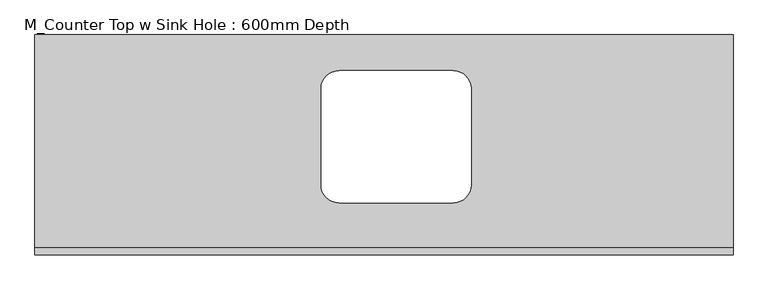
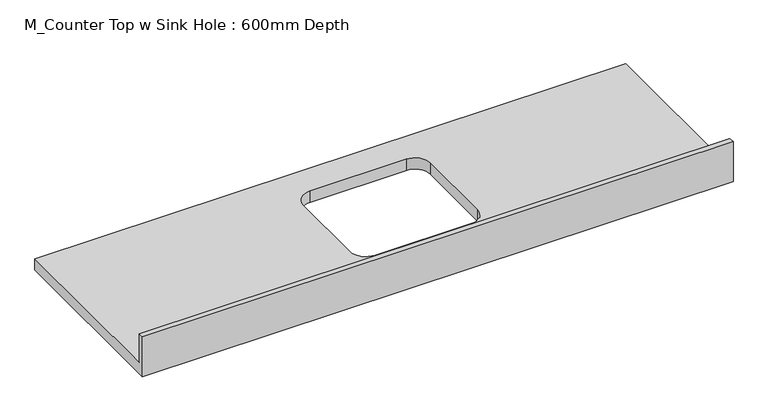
"""IFC4 building model written with IfcOpenShell, lengths in millimetres: furniture geometry, M_Counter Top w Sink Hole : 600mm Depth."""

import ifcopenshell
import ifcopenshell.guid

model = None  # the IFC model being written
_history = None  # IfcOwnerHistory: only IFC2X3 demands one
_inside = {}  # id of a spatial element -> (the spatial element, [elements in it])
_under = {}  # id of a project, library or spatial element -> (it, [spatial elements below it])
_declared = {}  # id of a project -> (the project, [libraries it declares])
_typed = {}  # id of a type object -> (the type object, [elements of that type])
_made_of = {}  # id of a material, layer set ... -> (it, [elements and type objects made of it])


def new_model(schema):
    """Start an empty IFC model of exactly this schema.

    Asked for "IFC4X3", IfcOpenShell would pick the latest addendum, in which some entities
    have other attributes; the version numbers below select the first issue.
    IFC2X3 requires an IfcOwnerHistory on every rooted entity: one is made here for all.
    """
    global model, _history
    if schema == "IFC4X3":
        model = ifcopenshell.file(schema_version=(4, 3, 0, 0))
    else:
        model = ifcopenshell.file(schema=schema)
    _inside.clear()
    _under.clear()
    _declared.clear()
    _typed.clear()
    _made_of.clear()
    _history = None
    if model.schema == "IFC2X3":
        org = make("IfcOrganization", Name="unknown")
        user = make(
            "IfcPersonAndOrganization",
            ThePerson=make("IfcPerson", FamilyName="unknown"),
            TheOrganization=org,
        )
        app = make(
            "IfcApplication",
            ApplicationDeveloper=org,
            Version="unknown",
            ApplicationFullName="unknown",
            ApplicationIdentifier="unknown",
        )
        _history = make(
            "IfcOwnerHistory",
            OwningUser=user,
            OwningApplication=app,
            ChangeAction="ADDED",
            CreationDate=0,
        )
    return model


def make(cls, **values):
    """One entity of the class cls with the attributes given. An attribute that is None is left unset."""
    return model.create_entity(
        cls, **{name: value for name, value in values.items() if value is not None}
    )


def rooted(cls, **values):
    """An entity with a GlobalId (a new one), such as an element, a storey or a relation."""
    return make(cls, GlobalId=ifcopenshell.guid.new(), OwnerHistory=_history, **values)


def si_unit(unit_type, name, prefix=None):
    """IfcSIUnit, for example si_unit("LENGTHUNIT", "METRE", prefix="MILLI")."""
    return make("IfcSIUnit", UnitType=unit_type, Prefix=prefix, Name=name)


def assignment(units):
    """IfcUnitAssignment: the units of a project."""
    return None if units is None else make("IfcUnitAssignment", Units=units)


def point(xyz):
    """IfcCartesianPoint."""
    return None if xyz is None else make("IfcCartesianPoint", Coordinates=xyz)


def direction(xyz):
    """IfcDirection."""
    return None if xyz is None else make("IfcDirection", DirectionRatios=xyz)


def frame(location, z_axis=None, x_axis=None):
    """IfcAxis2Placement3D, a coordinate frame: its origin and axes. An axis left out is left unset."""
    return make(
        "IfcAxis2Placement3D",
        Location=point(location),
        Axis=direction(z_axis),
        RefDirection=direction(x_axis),
    )


def origin():
    """The frame at (0, 0, 0) with its axes left unset."""
    return frame((0.0, 0.0, 0.0))


def place(relative_to, where):
    """IfcLocalPlacement: puts the frame where relative to a parent placement (None: the world)."""
    return make(
        "IfcLocalPlacement", PlacementRelTo=relative_to, RelativePlacement=where
    )


def context(
    kind, dimensions, precision=None, world=None, true_north=None, identifier=None
):
    """IfcGeometricRepresentationContext, for example the 3D "Model" context."""
    return make(
        "IfcGeometricRepresentationContext",
        ContextIdentifier=identifier,
        ContextType=kind,
        CoordinateSpaceDimension=dimensions,
        Precision=precision,
        WorldCoordinateSystem=world,
        TrueNorth=true_north,
    )


def project(units=None, contexts=None):
    """IfcProject with its units and contexts."""
    return rooted(
        "IfcProject",
        Name="project",
        RepresentationContexts=contexts,
        UnitsInContext=assignment(units),
    )


def spatial(cls, under=None, at=None, **own):
    """A site, building, storey or space (cls), placed at a placement, below another one or the project."""
    s = rooted(cls, ObjectPlacement=at, **own)
    if under is not None:
        _under.setdefault(under.id(), (under, []))[1].append(s)
    return s


def polyline(points):
    """IfcPolyline through the points."""
    return make("IfcPolyline", Points=[point(p) for p in points])


def circle_curve(where, radius):
    """IfcCircle in the frame where."""
    return make("IfcCircle", Position=where, Radius=radius)


def shape(context_of_items, identifier, shape_type, items):
    """IfcShapeRepresentation: the items that make up one representation, for example the "Body"."""
    return make(
        "IfcShapeRepresentation",
        ContextOfItems=context_of_items,
        RepresentationIdentifier=identifier,
        RepresentationType=shape_type,
        Items=items,
    )


def source(mapping_origin, context_of_items, identifier, shape_type, items):
    """IfcRepresentationMap: a shape defined once, which mapped items show again and again."""
    return make(
        "IfcRepresentationMap",
        MappingOrigin=mapping_origin,
        MappedRepresentation=shape(context_of_items, identifier, shape_type, items),
    )


def transform(
    local_origin,
    x_axis=None,
    y_axis=None,
    z_axis=None,
    scale=None,
    scale2=None,
    scale3=None,
    uniform=True,
):
    """IfcCartesianTransformationOperator3D, or its non-uniform kind. x_axis, y_axis, z_axis: its Axis1, 2, 3."""
    if uniform:
        return make(
            "IfcCartesianTransformationOperator3D",
            Axis1=direction(x_axis),
            Axis2=direction(y_axis),
            LocalOrigin=point(local_origin),
            Scale=scale,
            Axis3=direction(z_axis),
        )
    return make(
        "IfcCartesianTransformationOperator3DnonUniform",
        Axis1=direction(x_axis),
        Axis2=direction(y_axis),
        LocalOrigin=point(local_origin),
        Scale=scale,
        Axis3=direction(z_axis),
        Scale2=scale2,
        Scale3=scale3,
    )


def mapped(mapping_source, mapping_target):
    """IfcMappedItem: shows the shape of a source again, moved by a transform."""
    return make(
        "IfcMappedItem", MappingSource=mapping_source, MappingTarget=mapping_target
    )


def made_of(thing, what):
    """Note that an element or type object is made of a material, layer set ...; save() writes the relation."""
    if what is not None:
        _made_of.setdefault(what.id(), (what, []))[1].append(thing)
    return thing


def element(
    cls,
    number,
    at=None,
    inside=None,
    cuts=None,
    type_object=None,
    material=None,
    context=None,
    identifier="Body",
    shape_type=None,
    held_by="IfcProductDefinitionShape",
    body=None,
    shapes=None,
    **own,
):
    """One element of the class cls, such as IfcWall. Its Tag is "e" and its number.

    at: its placement. inside: the storey or other place that contains it. cuts: it is an
    opening in that element (IfcRelVoidsElement). A single representation is given by context,
    identifier, shape_type and body (its items); several are given by shapes. held_by: the class
    of the entity that holds the representations. save() writes the other relations.
    """
    e = rooted(cls, Tag="e%d" % number, ObjectPlacement=at, **own)
    if body is not None:
        shapes = [shape(context, identifier, shape_type, body)]
    if shapes is not None:
        e.Representation = make(held_by, Representations=shapes)
    if inside is not None:
        _inside.setdefault(inside.id(), (inside, []))[1].append(e)
    if cuts is not None:
        rooted(
            "IfcRelVoidsElement", RelatingBuildingElement=cuts, RelatedOpeningElement=e
        )
    if type_object is not None:
        _typed.setdefault(type_object.id(), (type_object, []))[1].append(e)
    return made_of(e, material)


def aggregate(whole, parts):
    """IfcRelAggregates: a whole, such as a stair, and the parts it consists of."""
    return rooted("IfcRelAggregates", RelatingObject=whole, RelatedObjects=parts)


def save(model, path):
    """Write the relations noted so far, then the file.

    IfcRelAggregates (storeys below a building ...), IfcRelContainedInSpatialStructure (elements
    in a storey), IfcRelDefinesByType, IfcRelAssociatesMaterial and IfcRelDeclares: one each for
    every whole, place, type object, material and project.
    """
    for whole, parts in _under.values():
        aggregate(whole, parts)
    for where, things in _inside.values():
        rooted(
            "IfcRelContainedInSpatialStructure",
            RelatedElements=things,
            RelatingStructure=where,
        )
    for kind, things in _typed.values():
        rooted("IfcRelDefinesByType", RelatedObjects=things, RelatingType=kind)
    for what, things in _made_of.values():
        rooted("IfcRelAssociatesMaterial", RelatedObjects=things, RelatingMaterial=what)
    for by, libraries in _declared.values():
        rooted("IfcRelDeclares", RelatingContext=by, RelatedDefinitions=libraries)
    model.write(path)


def plane_surface(at):
    """IfcPlane: the flat surface through the origin of the frame at, square to its z axis."""
    return make("IfcPlane", Position=at)


def revolved_surface(curve, axis_point, axis_direction):
    """IfcSurfaceOfRevolution: the curve turned about the line through axis_point along axis_direction."""
    return make(
        "IfcSurfaceOfRevolution",
        SweptCurve=make("IfcArbitraryOpenProfileDef", ProfileType="CURVE", Curve=curve),
        AxisPosition=make("IfcAxis1Placement", Location=point(axis_point), Axis=direction(axis_direction)),
    )


def advanced_brep(points, edges, surfaces, faces):
    """IfcAdvancedBrep: a solid bounded by faces that lie on surfaces and meet in shared edges.

    An edge is (start, end): straight between two places in points (the first is 0);
    or (start, end, curve); or (start, end, curve, False) where it runs against its curve.
    A face is (place in surfaces, loops), or (place, loops, False) where it looks against
    its surface's normal. A loop lists edges by number (the first is 1), with a minus sign
    where the edge is run from its end to its start. The first loop is the outer one.
    """
    corners = [point(p) for p in points]
    vertices = [make("IfcVertexPoint", VertexGeometry=c) for c in corners]
    made = []
    for start, end, *more in edges:
        made.append(
            make(
                "IfcEdgeCurve",
                EdgeStart=vertices[start],
                EdgeEnd=vertices[end],
                EdgeGeometry=more[0] if more else make("IfcPolyline", Points=[corners[start], corners[end]]),
                SameSense=more[1] if len(more) > 1 else True,
            )
        )
    hull = []
    for where, loops, *sense in faces:
        bounds = []
        for j, loop in enumerate(loops):
            ring = [make("IfcOrientedEdge", EdgeElement=made[abs(k) - 1], Orientation=k > 0) for k in loop]
            bounds.append(
                make(
                    "IfcFaceOuterBound" if j == 0 else "IfcFaceBound",
                    Bound=make("IfcEdgeLoop", EdgeList=ring),
                    Orientation=True,
                )
            )
        hull.append(make("IfcAdvancedFace", Bounds=bounds, FaceSurface=surfaces[where], SameSense=sense[0] if sense else True))
    return make("IfcAdvancedBrep", Outer=make("IfcClosedShell", CfsFaces=hull))


def m_counter_top_w_sink_hole_600mm_depth_42226178(model_context):
    return source(origin(), model_context, "Body", "AdvancedBrep", [
        advanced_brep(
        [(-1200.4622951, 625.0, 900.0), (-1200.4622951, 19.05, 900.0), (781.0377049, 19.05, 900.0), (781.0377049, 625.0, 900.0), (-337.3622951, 147.3, 900.0), (-388.1622951, 198.1, 900.0), (-388.1622951, 471.9, 900.0), (-337.3622951, 522.7, 900.0), (-13.5622951, 522.7, 900.0), (37.2377049, 471.9, 900.0), (37.2377049, 198.1, 900.0), (-13.5622951, 147.3, 900.0), (781.0377049, 0.0, 860.0), (-1200.4622951, 0.0, 860.0), (-1200.4622951, 625.0, 860.0), (781.0377049, 625.0, 860.0), (-13.5622951, 147.3, 860.0), (37.2377049, 198.1, 860.0), (37.2377049, 471.9, 860.0), (-13.5622951, 522.7, 860.0), (-337.3622951, 522.7, 860.0), (-388.1622951, 471.9, 860.0), (-388.1622951, 198.1, 860.0), (-337.3622951, 147.3, 860.0), (781.0377049, 0.0, 1001.6), (-1200.4622951, 0.0, 1001.6), (-1200.4622951, 19.05, 1001.6), (781.0377049, 19.05, 1001.6)],
        [
            (0, 1),
            (1, 2),
            (2, 3),
            (3, 0),
            (4, 5, circle_curve(frame((-337.3622951, 198.1, 900.0), z_axis=(0.0, 0.0, -1.0), x_axis=(1.0, 0.0, 0.0)), 50.8)),
            (5, 6),
            (6, 7, circle_curve(frame((-337.3622951, 471.9, 900.0), z_axis=(0.0, 0.0, -1.0), x_axis=(1.0, 0.0, 0.0)), 50.8)),
            (7, 8),
            (8, 9, circle_curve(frame((-13.5622951, 471.9, 900.0), z_axis=(0.0, 0.0, -1.0), x_axis=(1.0, 0.0, 0.0)), 50.8)),
            (9, 10),
            (10, 11, circle_curve(frame((-13.5622951, 198.1, 900.0), z_axis=(0.0, 0.0, -1.0), x_axis=(1.0, 0.0, 0.0)), 50.8)),
            (11, 4),
            (12, 13),
            (13, 14),
            (14, 15),
            (15, 12),
            (16, 17, circle_curve(frame((-13.5622951, 198.1, 860.0), z_axis=(0.0, 0.0, 1.0), x_axis=(1.0, 0.0, 0.0)), 50.8)),
            (17, 18),
            (18, 19, circle_curve(frame((-13.5622951, 471.9, 860.0), z_axis=(0.0, 0.0, 1.0), x_axis=(1.0, 0.0, 0.0)), 50.8)),
            (19, 20),
            (20, 21, circle_curve(frame((-337.3622951, 471.9, 860.0), z_axis=(0.0, 0.0, 1.0), x_axis=(1.0, 0.0, 0.0)), 50.8)),
            (21, 22),
            (22, 23, circle_curve(frame((-337.3622951, 198.1, 860.0), z_axis=(0.0, 0.0, 1.0), x_axis=(1.0, 0.0, 0.0)), 50.8)),
            (23, 16),
            (12, 24),
            (24, 25),
            (25, 13),
            (25, 26),
            (26, 1),
            (0, 14),
            (3, 15),
            (2, 27),
            (27, 24),
            (27, 26),
            (11, 16),
            (23, 4),
            (22, 5),
            (21, 6),
            (20, 7),
            (19, 8),
            (18, 9),
            (17, 10),
        ],
        [
            plane_surface(frame((-1200.4622951, 0.0, 900.0), z_axis=(0.0, 0.0, 1.0), x_axis=(-1.0, 0.0, 0.0))),
            plane_surface(frame((-1200.4622951, 0.0, 860.0), z_axis=(0.0, 0.0, -1.0), x_axis=(1.0, 0.0, 0.0))),
            plane_surface(frame((781.0377049, 0.0, 900.0), z_axis=(0.0, -1.0, 0.0), x_axis=(0.0, 0.0, -1.0))),
            plane_surface(frame((-1200.4622951, 0.0, 900.0), z_axis=(-1.0, 0.0, 0.0), x_axis=(0.0, 0.0, -1.0))),
            plane_surface(frame((-1200.4622951, 625.0, 900.0), z_axis=(0.0, 1.0, 0.0), x_axis=(0.0, 0.0, -1.0))),
            plane_surface(frame((781.0377049, 625.0, 900.0), z_axis=(1.0, 0.0, 0.0), x_axis=(0.0, 0.0, -1.0))),
            plane_surface(frame((-1200.4622951, 0.0, 1001.6), z_axis=(0.0, 0.0, 1.0), x_axis=(0.0, 1.0, 0.0))),
            plane_surface(frame((-1200.4622951, 19.05, 1001.6), z_axis=(0.0, 1.0, 0.0), x_axis=(0.0, 0.0, -1.0))),
            plane_surface(frame((-13.5622951, 147.3, 900.0), z_axis=(0.0, 1.0, 0.0), x_axis=(0.0, 0.0, -1.0))),
            revolved_surface(polyline([(-286.5622951, 198.1, 900.0), (-286.5622951, 198.1, 860.0)]), (-337.3622951, 198.1, 860.0), (0.0, 0.0, 1.0)),
            plane_surface(frame((-388.1622951, 198.1, 900.0), z_axis=(1.0, 0.0, 0.0), x_axis=(0.0, 0.0, -1.0))),
            revolved_surface(polyline([(-286.5622951, 471.9, 900.0), (-286.5622951, 471.9, 860.0)]), (-337.3622951, 471.9, 860.0), (0.0, 0.0, 1.0)),
            plane_surface(frame((-337.3622951, 522.7, 900.0), z_axis=(0.0, -1.0, 0.0), x_axis=(0.0, 0.0, -1.0))),
            revolved_surface(polyline([(37.2377049, 471.9, 900.0), (37.2377049, 471.9, 860.0)]), (-13.5622951, 471.9, 860.0), (0.0, 0.0, 1.0)),
            plane_surface(frame((37.2377049, 471.9, 900.0), z_axis=(-1.0, 0.0, 0.0), x_axis=(0.0, 0.0, -1.0))),
            revolved_surface(polyline([(37.2377049, 198.1, 900.0), (37.2377049, 198.1, 860.0)]), (-13.5622951, 198.1, 860.0), (0.0, 0.0, 1.0)),
        ],
        [
            (0, [[1, 2, 3, 4], [5, 6, 7, 8, 9, 10, 11, 12]]),
            (1, [[13, 14, 15, 16], [17, 18, 19, 20, 21, 22, 23, 24]]),
            (2, [[25, 26, 27, -13]]),
            (3, [[-27, 28, 29, -1, 30, -14]]),
            (4, [[31, -15, -30, -4]]),
            (5, [[-31, -3, 32, 33, -25, -16]]),
            (6, [[-26, -33, 34, -28]]),
            (7, [[-32, -2, -29, -34]]),
            (8, [[-12, 35, -24, 36]]),
            (9, [[-23, 37, -5, -36]]),
            (10, [[-22, 38, -6, -37]]),
            (11, [[-21, 39, -7, -38]]),
            (12, [[-20, 40, -8, -39]]),
            (13, [[-19, 41, -9, -40]]),
            (14, [[-18, 42, -10, -41]]),
            (15, [[-11, -42, -17, -35]]),
        ],
    ),
    ])


if __name__ == "__main__":
    model = new_model("IFC4")
    model_context = context("Model", 3, world=origin())
    ifc_project = project(units=[si_unit("LENGTHUNIT", "METRE", prefix="MILLI")], contexts=[model_context])
    site = spatial("IfcSite", under=ifc_project)
    building = spatial("IfcBuilding", under=site)
    placement = place(None, origin())
    m_counter_top_w_sink_hole_600mm_depth_shape = m_counter_top_w_sink_hole_600mm_depth_42226178(model_context)
    element("IfcFurniture", 1, ObjectType="M_Counter Top w Sink Hole : 600mm Depth", at=placement, inside=building, context=model_context, shape_type="MappedRepresentation", body=[
        mapped(m_counter_top_w_sink_hole_600mm_depth_shape, transform((0.0, 0.0, 0.0), x_axis=(1.0, 0.0, 0.0), y_axis=(0.0, 1.0, 0.0), z_axis=(0.0, 0.0, 1.0))),
    ])
    save(model, "model.ifc")
